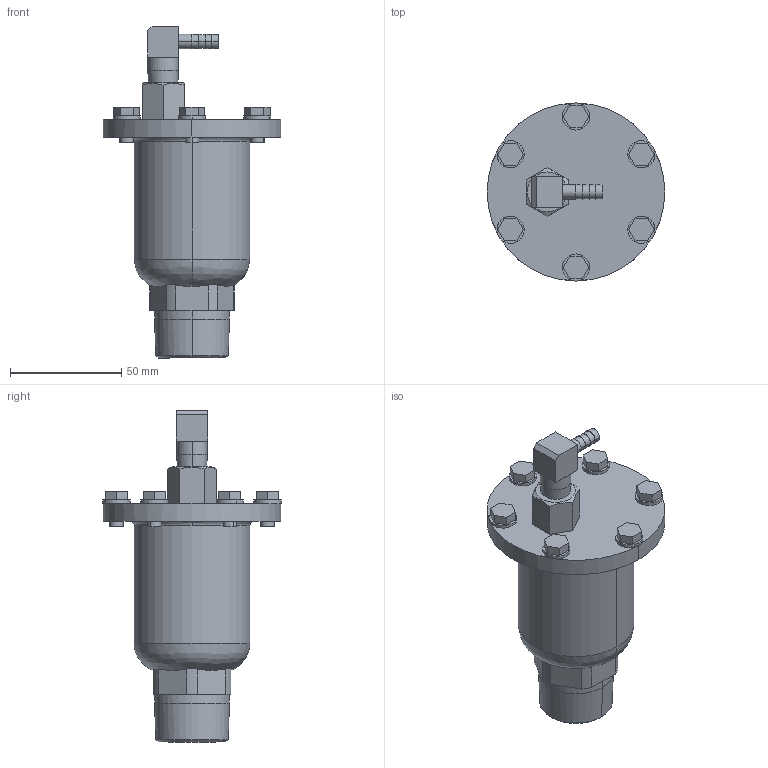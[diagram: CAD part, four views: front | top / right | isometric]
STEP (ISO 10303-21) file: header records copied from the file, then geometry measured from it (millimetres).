
FILE_DESCRIPTION( (''), '2;1');
FILE_NAME ('PC1027.10420.TA-16L 25A_3755.stp','2025-07-29T11:35:45',(''),(''),'spGate 20.6.3 (****-****-****-****)','','');
FILE_SCHEMA (('AUTOMOTIVE_DESIGN'));
Length unit declared in the file: millimetre
Products named in the file (2): Assembly; TA-16L 25A
Assembly tree (1 placements, depth 2):
  Assembly
    TA-16L 25A
Bounding box: 80 x 80.2 x 149.5 mm (x, y, z)
Volume: 221365.2 mm3; surface area: 30285.4 mm2
Topology: 1 solids, 1 shells, 154 faces, 366 edges, 237 vertices
Faces by surface type: plane 90, cylinder 44, bspline 20
Entity records: 7687 total; most frequent: CARTESIAN_POINT 1179, ORIENTED_EDGE 732, DIRECTION 707, COLOUR_RGB 521, PRESENTATION_STYLE_ASSIGNMENT 521, STYLED_ITEM 521, EDGE_CURVE 366, DRAUGHTING_PRE_DEFINED_CURVE_FONT 366
